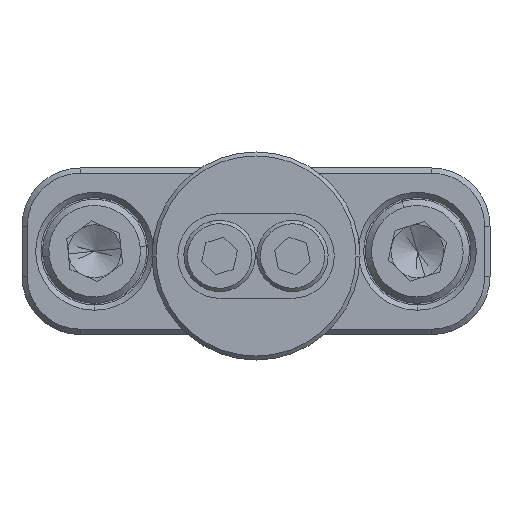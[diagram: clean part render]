
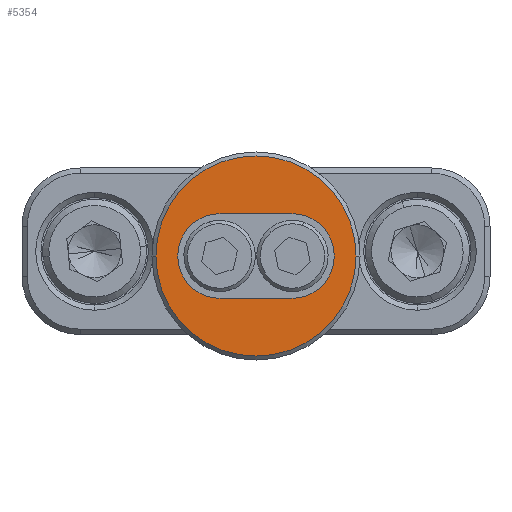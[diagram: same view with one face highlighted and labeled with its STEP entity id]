
A CAD part, front view. The second image highlights one B-rep face of the part: STEP entity #5354.
In plain terms, the highlighted planar face has unit normal (0, -1, 0).
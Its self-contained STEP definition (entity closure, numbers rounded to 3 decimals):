
#133 = CARTESIAN_POINT ( 'NONE',  ( -4.064, 0., -3.454 ) ) ;
#134 = DIRECTION ( 'NONE',  ( 0., 0., 1. ) ) ;
#137 = FACE_OUTER_BOUND ( 'NONE', #3240, .T. ) ;
#233 = DIRECTION ( 'NONE',  ( 0., -1., 0. ) ) ;
#363 = CARTESIAN_POINT ( 'NONE',  ( 4.064, 0., 3.454 ) ) ;
#369 = EDGE_CURVE ( 'NONE', #1341, #664, #2704, .T. ) ;
#464 = VECTOR ( 'NONE', #4207, 1000. ) ;
#548 = CARTESIAN_POINT ( 'NONE',  ( 0., 0., -3.454 ) ) ;
#586 = ORIENTED_EDGE ( 'NONE', *, *, #3156, .T. ) ;
#664 = VERTEX_POINT ( 'NONE', #4617 ) ;
#715 = LINE ( 'NONE', #4861, #4648 ) ;
#823 = DIRECTION ( 'NONE',  ( 0., -1., 0. ) ) ;
#850 = AXIS2_PLACEMENT_3D ( 'NONE', #1978, #2828, #1554 ) ;
#887 = FACE_BOUND ( 'NONE', #1774, .T. ) ;
#972 = EDGE_CURVE ( 'NONE', #2794, #1693, #715, .T. ) ;
#1064 = DIRECTION ( 'NONE',  ( 0., -1., 0. ) ) ;
#1091 = CARTESIAN_POINT ( 'NONE',  ( 0., 0., -7.518 ) ) ;
#1239 = CIRCLE ( 'NONE', #4166, 4.064 ) ;
#1289 = VERTEX_POINT ( 'NONE', #1091 ) ;
#1341 = VERTEX_POINT ( 'NONE', #2330 ) ;
#1493 = DIRECTION ( 'NONE',  ( 0., 0., -1. ) ) ;
#1554 = DIRECTION ( 'NONE',  ( 0., 0., 1. ) ) ;
#1619 = ORIENTED_EDGE ( 'NONE', *, *, #972, .F. ) ;
#1687 = ORIENTED_EDGE ( 'NONE', *, *, #5157, .F. ) ;
#1693 = VERTEX_POINT ( 'NONE', #363 ) ;
#1702 = LINE ( 'NONE', #2503, #464 ) ;
#1774 = EDGE_LOOP ( 'NONE', ( #1619, #1687, #5217, #2010, #3117 ) ) ;
#1892 = DIRECTION ( 'NONE',  ( 0., -1., 0. ) ) ;
#1978 = CARTESIAN_POINT ( 'NONE',  ( 0., 0., 0. ) ) ;
#2010 = ORIENTED_EDGE ( 'NONE', *, *, #3857, .F. ) ;
#2109 = AXIS2_PLACEMENT_3D ( 'NONE', #3451, #823, #4786 ) ;
#2186 = CARTESIAN_POINT ( 'NONE',  ( 4.064, 0., -3.454 ) ) ;
#2330 = CARTESIAN_POINT ( 'NONE',  ( 0., 0., -9.614 ) ) ;
#2384 = EDGE_CURVE ( 'NONE', #1693, #4280, #1239, .T. ) ;
#2503 = CARTESIAN_POINT ( 'NONE',  ( -4.064, 0., -3.454 ) ) ;
#2704 = CIRCLE ( 'NONE', #3019, 9.614 ) ;
#2762 = CARTESIAN_POINT ( 'NONE',  ( 0., 0., 3.454 ) ) ;
#2780 = CARTESIAN_POINT ( 'NONE',  ( 0., 0., 0. ) ) ;
#2794 = VERTEX_POINT ( 'NONE', #2186 ) ;
#2828 = DIRECTION ( 'NONE',  ( 0., 1., 0. ) ) ;
#3019 = AXIS2_PLACEMENT_3D ( 'NONE', #2780, #233, #5056 ) ;
#3117 = ORIENTED_EDGE ( 'NONE', *, *, #2384, .F. ) ;
#3156 = EDGE_CURVE ( 'NONE', #664, #1341, #4936, .T. ) ;
#3210 = ORIENTED_EDGE ( 'NONE', *, *, #369, .T. ) ;
#3240 = EDGE_LOOP ( 'NONE', ( #586, #3210 ) ) ;
#3249 = CARTESIAN_POINT ( 'NONE',  ( 0., 0., 0. ) ) ;
#3451 = CARTESIAN_POINT ( 'NONE',  ( 0., 0., -3.454 ) ) ;
#3475 = CARTESIAN_POINT ( 'NONE',  ( -4.064, 0., 3.454 ) ) ;
#3484 = DIRECTION ( 'NONE',  ( 0., 0., 1. ) ) ;
#3857 = EDGE_CURVE ( 'NONE', #4280, #5181, #1702, .T. ) ;
#3899 = AXIS2_PLACEMENT_3D ( 'NONE', #548, #5434, #4058 ) ;
#3995 = EDGE_CURVE ( 'NONE', #5181, #1289, #5416, .T. ) ;
#4058 = DIRECTION ( 'NONE',  ( 0., 0., 1. ) ) ;
#4166 = AXIS2_PLACEMENT_3D ( 'NONE', #2762, #1064, #1493 ) ;
#4172 = PLANE ( 'NONE',  #850 ) ;
#4184 = CIRCLE ( 'NONE', #3899, 4.064 ) ;
#4207 = DIRECTION ( 'NONE',  ( 0., 0., -1. ) ) ;
#4280 = VERTEX_POINT ( 'NONE', #3475 ) ;
#4617 = CARTESIAN_POINT ( 'NONE',  ( 0., 0., 9.614 ) ) ;
#4648 = VECTOR ( 'NONE', #3484, 1000. ) ;
#4786 = DIRECTION ( 'NONE',  ( 0., 0., 1. ) ) ;
#4861 = CARTESIAN_POINT ( 'NONE',  ( 4.064, 0., -3.454 ) ) ;
#4936 = CIRCLE ( 'NONE', #5218, 9.614 ) ;
#5056 = DIRECTION ( 'NONE',  ( 0., 0., 1. ) ) ;
#5157 = EDGE_CURVE ( 'NONE', #1289, #2794, #4184, .T. ) ;
#5181 = VERTEX_POINT ( 'NONE', #133 ) ;
#5217 = ORIENTED_EDGE ( 'NONE', *, *, #3995, .F. ) ;
#5218 = AXIS2_PLACEMENT_3D ( 'NONE', #3249, #1892, #134 ) ;
#5354 = ADVANCED_FACE ( 'NONE', ( #887, #137 ), #4172, .F. ) ;
#5416 = CIRCLE ( 'NONE', #2109, 4.064 ) ;
#5434 = DIRECTION ( 'NONE',  ( 0., -1., 0. ) ) ;
